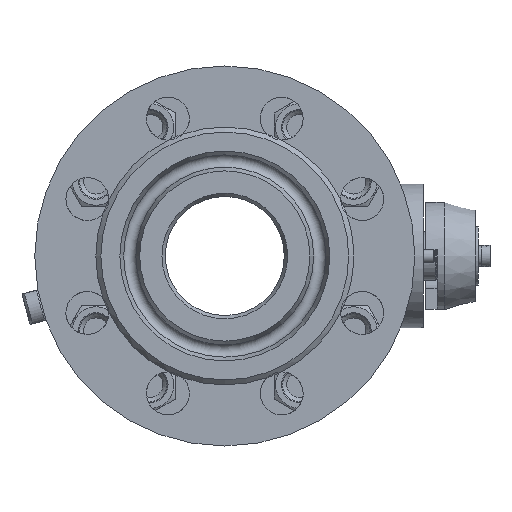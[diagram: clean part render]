
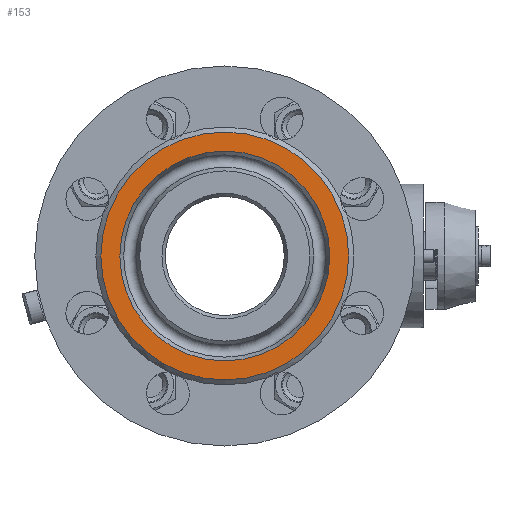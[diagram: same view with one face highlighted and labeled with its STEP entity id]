
A CAD part, left-side view. The second image highlights one B-rep face of the part: STEP entity #153.
In plain terms, the highlighted planar face has unit normal (-1, 0, 0).
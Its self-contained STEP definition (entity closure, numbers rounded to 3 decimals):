
#153=ADVANCED_FACE('',(#3265,#3267),#3269,.T.);
#3265=FACE_BOUND('',#3266,.T.);
#3266=EDGE_LOOP('',(#8409));
#3267=FACE_OUTER_BOUND('',#3268,.T.);
#3268=EDGE_LOOP('',(#8410));
#3269=PLANE('',#3270);
#3270=AXIS2_PLACEMENT_3D('',#3271,#3272,#3273);
#3271=CARTESIAN_POINT('',(-178.,0.,0.));
#3272=DIRECTION('',(-1.,0.,0.));
#3273=DIRECTION('',(0.,-1.,0.));
#8409=ORIENTED_EDGE('',*,*,#12731,.T.);
#8410=ORIENTED_EDGE('',*,*,#12736,.F.);
#12731=EDGE_CURVE('',#14294,#14294,#14296,.T.);
#12736=EDGE_CURVE('',#14302,#14302,#14303,.T.);
#14294=VERTEX_POINT('',#17197);
#14296=CIRCLE('',#17201,63.5);
#14302=VERTEX_POINT('',#17222);
#14303=CIRCLE('',#17223,75.);
#17197=CARTESIAN_POINT('',(-178.,-63.5,0.));
#17201=AXIS2_PLACEMENT_3D('',#17202,#17203,#17204);
#17202=CARTESIAN_POINT('',(-178.,0.,0.));
#17203=DIRECTION('',(1.,0.,0.));
#17204=DIRECTION('',(0.,-1.,0.));
#17222=CARTESIAN_POINT('',(-178.,-75.,0.));
#17223=AXIS2_PLACEMENT_3D('',#17224,#17225,#17226);
#17224=CARTESIAN_POINT('',(-178.,0.,0.));
#17225=DIRECTION('',(1.,0.,0.));
#17226=DIRECTION('',(0.,-1.,0.));
